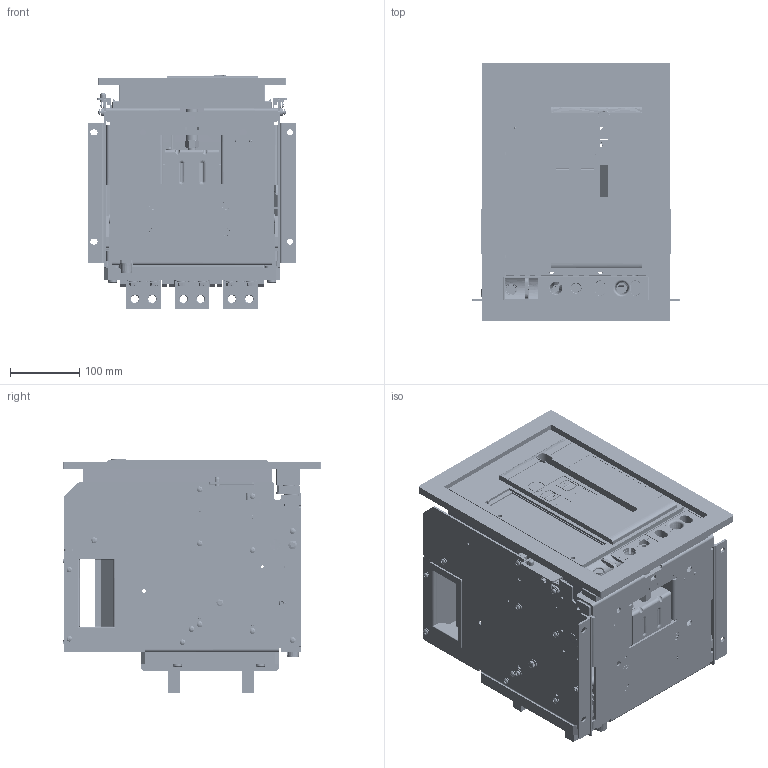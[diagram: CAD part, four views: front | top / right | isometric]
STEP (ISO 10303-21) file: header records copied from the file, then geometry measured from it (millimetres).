
FILE_DESCRIPTION (( 'STEP AP214' ), '1' );
FILE_NAME ('TGW1N-1600 D 3P 1250A-1600A.STEP', '2026-05-21T08:51:25', ( '' ), ( '' ), 'SwSTEP 2.0', 'SolidWorks 2024', '' );
FILE_SCHEMA (( 'AUTOMOTIVE_DESIGN' ));
Products named in the file (1): TGW1N-1600 D 3P 1250A-1600A
Bounding box: 302 x 374.11 x 339.5 mm (x, y, z)
Surface area: 1633957.1 mm2 (no closed solid volume)
Topology: 0 solids, 360 shells, 3451 faces, 24228 edges, 20716 vertices
Faces by surface type: plane 1791, cylinder 1081, cone 257, torus 202, sphere 73, bspline 47
Entity records: 291047 total; most frequent: CARTESIAN_POINT 140424, ORIENTED_EDGE 31002, EDGE_CURVE 24202, VERTEX_POINT 20714, DIRECTION 20327, B_SPLINE_CURVE_WITH_KNOTS 13514, VECTOR 7821, LINE 7821
